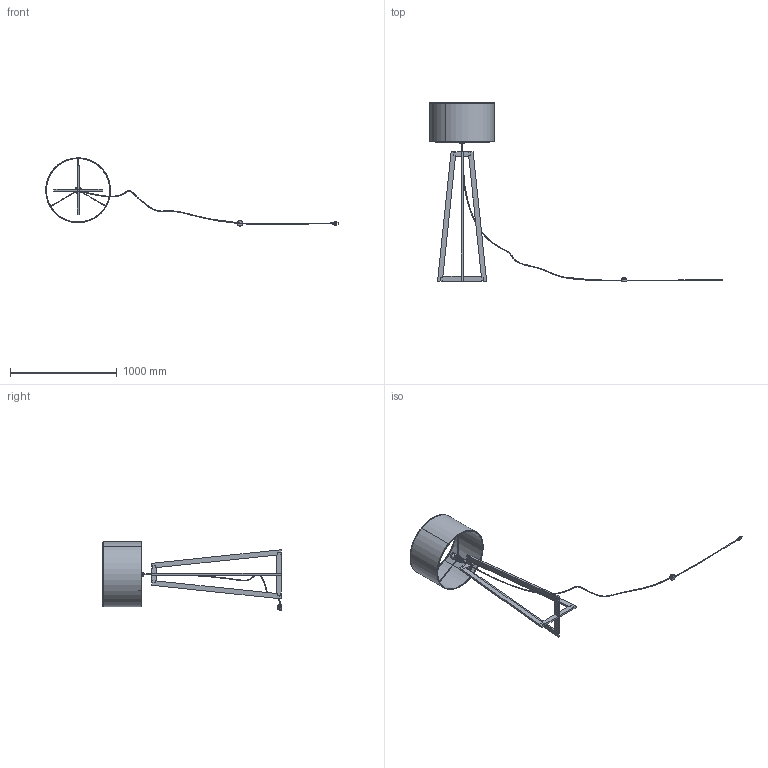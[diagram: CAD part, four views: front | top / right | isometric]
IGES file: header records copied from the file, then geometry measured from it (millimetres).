
Start section: SolidWorks IGES file using analytic representation for surfaces
Global section: file name: Z:\Modele 3D_WWW\_KOLEKCJE_WWW\ACROSS-6927\ACROSS-6927.IGS; native system: SolidWorks 2021; preprocessor: SolidWorks 2021; author: gabriela.tworek; date: 210728.133918; units: millimetre
Bounding box: 2736.21 x 1667 x 637.29 mm (x, y, z)
Surface area: 2457738.6 mm2 (no closed solid volume)
Topology: 0 solids, 0 shells, 750 faces, 9102 edges, 9078 vertices
Faces by surface type: bspline 440, revolution 310
